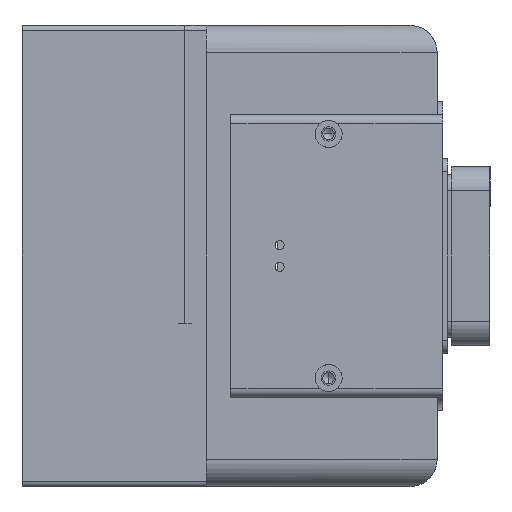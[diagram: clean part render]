
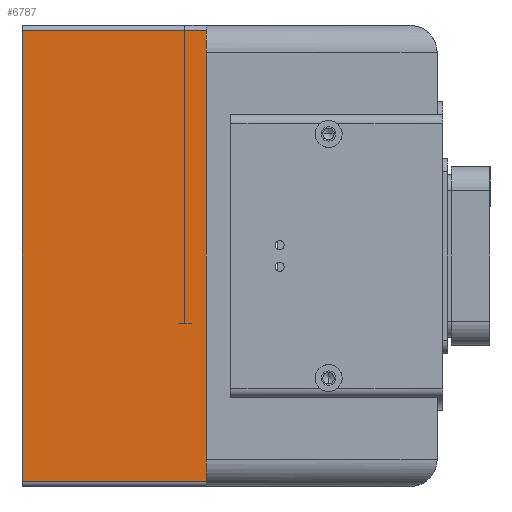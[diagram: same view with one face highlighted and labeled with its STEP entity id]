
A CAD part, left-side view. The second image highlights one B-rep face of the part: STEP entity #6787.
In plain terms, the highlighted planar face has unit normal (-1, 0, 0).
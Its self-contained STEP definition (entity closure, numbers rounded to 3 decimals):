
#1324 = VECTOR ( 'NONE', #3119, 1000. ) ;
#2245 = PLANE ( 'NONE',  #7424 ) ;
#2270 = ORIENTED_EDGE ( 'NONE', *, *, #2616, .F. ) ;
#2616 = EDGE_CURVE ( 'NONE', #4032, #15698, #10950, .T. ) ;
#3105 = DIRECTION ( 'NONE',  ( 0., 1., 0. ) ) ;
#3119 = DIRECTION ( 'NONE',  ( 0., 0., 1. ) ) ;
#4032 = VERTEX_POINT ( 'NONE', #4869 ) ;
#4869 = CARTESIAN_POINT ( 'NONE',  ( -142.5, 153., 83. ) ) ;
#5264 = CARTESIAN_POINT ( 'NONE',  ( -142.5, 153., 83. ) ) ;
#5292 = DIRECTION ( 'NONE',  ( 0., 0., -1. ) ) ;
#5436 = CARTESIAN_POINT ( 'NONE',  ( -142.5, 85., 83. ) ) ;
#5884 = CARTESIAN_POINT ( 'NONE',  ( -142.5, 153., 0. ) ) ;
#5925 = CARTESIAN_POINT ( 'NONE',  ( -142.5, 85., 0. ) ) ;
#6097 = VECTOR ( 'NONE', #19505, 1000. ) ;
#6787 = ADVANCED_FACE ( 'NONE', ( #16854 ), #2245, .F. ) ;
#7037 = ORIENTED_EDGE ( 'NONE', *, *, #10741, .F. ) ;
#7424 = AXIS2_PLACEMENT_3D ( 'NONE', #11566, #17788, #5292 ) ;
#7947 = EDGE_CURVE ( 'NONE', #13934, #4032, #18263, .T. ) ;
#8528 = EDGE_CURVE ( 'NONE', #15698, #14666, #20025, .T. ) ;
#8708 = ORIENTED_EDGE ( 'NONE', *, *, #8528, .F. ) ;
#9133 = DIRECTION ( 'NONE',  ( 0., 0., -1. ) ) ;
#10741 = EDGE_CURVE ( 'NONE', #14666, #13934, #10871, .T. ) ;
#10861 = CARTESIAN_POINT ( 'NONE',  ( -142.5, 153., -83. ) ) ;
#10871 = LINE ( 'NONE', #17249, #18786 ) ;
#10950 = LINE ( 'NONE', #5264, #6097 ) ;
#11566 = CARTESIAN_POINT ( 'NONE',  ( -142.5, 153., -85. ) ) ;
#11589 = VECTOR ( 'NONE', #9133, 1000. ) ;
#12156 = EDGE_LOOP ( 'NONE', ( #2270, #15192, #7037, #8708 ) ) ;
#13934 = VERTEX_POINT ( 'NONE', #10861 ) ;
#14666 = VERTEX_POINT ( 'NONE', #15856 ) ;
#15192 = ORIENTED_EDGE ( 'NONE', *, *, #7947, .F. ) ;
#15698 = VERTEX_POINT ( 'NONE', #5436 ) ;
#15856 = CARTESIAN_POINT ( 'NONE',  ( -142.5, 85., -83. ) ) ;
#16854 = FACE_OUTER_BOUND ( 'NONE', #12156, .T. ) ;
#17249 = CARTESIAN_POINT ( 'NONE',  ( -142.5, 153., -83. ) ) ;
#17788 = DIRECTION ( 'NONE',  ( 1., 0., 0. ) ) ;
#18263 = LINE ( 'NONE', #5884, #1324 ) ;
#18786 = VECTOR ( 'NONE', #3105, 1000. ) ;
#19505 = DIRECTION ( 'NONE',  ( 0., -1., 0. ) ) ;
#20025 = LINE ( 'NONE', #5925, #11589 ) ;
